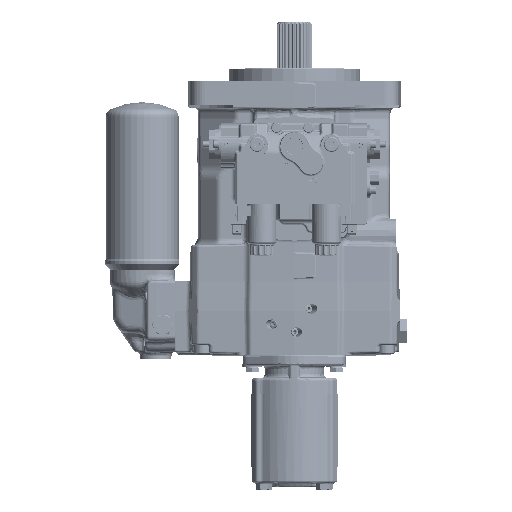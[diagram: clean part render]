
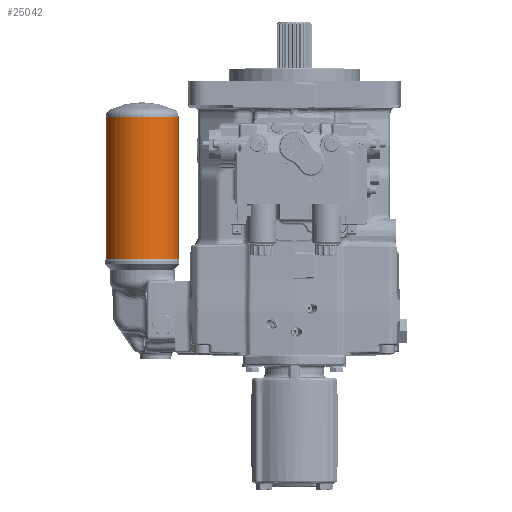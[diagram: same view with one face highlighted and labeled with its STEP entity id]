
A CAD part, top view. The second image highlights one B-rep face of the part: STEP entity #25042.
In plain terms, the highlighted cylindrical face has radius 46 mm (diameter 92 mm), a full revolution.
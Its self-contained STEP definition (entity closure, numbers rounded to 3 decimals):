
#5392=CYLINDRICAL_SURFACE('',#84200,46.);
#25042=ADVANCED_FACE('',(#26884,#26885),#5392,.T.);
#26884=FACE_BOUND('',#32347,.T.);
#26885=FACE_BOUND('',#32348,.T.);
#32347=EDGE_LOOP('',(#53744));
#32348=EDGE_LOOP('',(#53745));
#53744=ORIENTED_EDGE('',*,*,#71749,.F.);
#53745=ORIENTED_EDGE('',*,*,#71750,.T.);
#60953=VERTEX_POINT('',#158084);
#60954=VERTEX_POINT('',#158087);
#71749=EDGE_CURVE('',#60953,#60953,#75815,.T.);
#71750=EDGE_CURVE('',#60954,#60954,#75816,.T.);
#75815=CIRCLE('',#84197,46.);
#75816=CIRCLE('',#84199,46.);
#84197=AXIS2_PLACEMENT_3D('',#158083,#105029,#105030);
#84199=AXIS2_PLACEMENT_3D('',#158086,#105033,#105034);
#84200=AXIS2_PLACEMENT_3D('',#158088,#105035,#105036);
#105029=DIRECTION('',(0.,1.,0.));
#105030=DIRECTION('',(-0.383,0.,-0.924));
#105033=DIRECTION('',(0.,1.,0.));
#105034=DIRECTION('',(-0.383,0.,-0.924));
#105035=DIRECTION('',(0.,1.,0.));
#105036=DIRECTION('',(-0.383,0.,-0.924));
#158083=CARTESIAN_POINT('',(-192.,207.259,16.));
#158084=CARTESIAN_POINT('',(-209.62,207.259,-26.491));
#158086=CARTESIAN_POINT('',(-192.,26.992,16.));
#158087=CARTESIAN_POINT('',(-209.62,26.992,-26.491));
#158088=CARTESIAN_POINT('',(-192.,13.5,16.));
